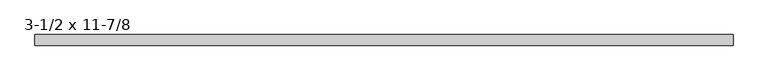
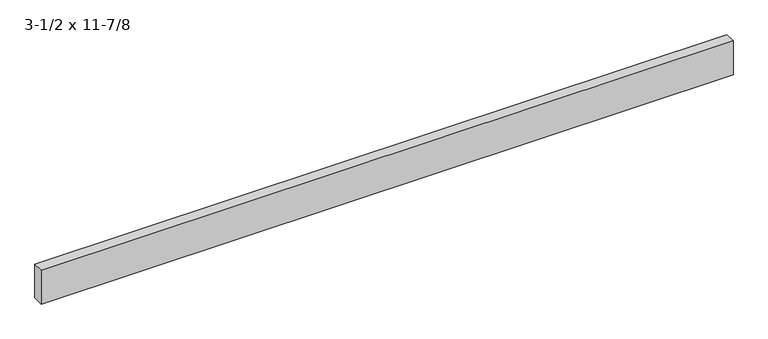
"""IFC4 building model written with IfcOpenShell, lengths in millimetres: beam geometry, Trus Joist - Parallam PSL - Beam Header : 3-1/2 x 11-7/8."""

from ifc_helpers import new_model, si_unit, frame, origin, place, context, project, spatial, polyline, outline, extrude, source, transform, mapped, element, save


def beam_3_1_2_x_11_7_8_73793a9f(model_context):
    return source(origin(), model_context, "Body", "SweptSolid", [
        extrude(outline(polyline([(2901.95, 44.45), (2901.95, -44.45), (-2927.35, -44.45), (-2927.35, 44.45), (2901.95, 44.45)])), frame((0.0, 0.0, -150.8125), z_axis=(0.0, 0.0, 1.0), x_axis=(1.0, 0.0, 0.0)), (0.0, 0.0, 1.0), 301.625),
    ])


if __name__ == "__main__":
    model = new_model("IFC4")
    model_context = context("Model", 3, world=origin())
    ifc_project = project(units=[si_unit("LENGTHUNIT", "METRE", prefix="MILLI")], contexts=[model_context])
    site = spatial("IfcSite", under=ifc_project)
    building = spatial("IfcBuilding", under=site)
    placement = place(None, origin())
    beam_3_1_2_x_11_7_8_shape = beam_3_1_2_x_11_7_8_73793a9f(model_context)
    element("IfcBeam", 1, ObjectType="Trus Joist - Parallam PSL - Beam Header : 3-1/2 x 11-7/8", at=placement, inside=building, context=model_context, shape_type="MappedRepresentation", body=[
        mapped(beam_3_1_2_x_11_7_8_shape, transform((0.0, 0.0, 0.0), x_axis=(1.0, 0.0, 0.0), y_axis=(0.0, 1.0, 0.0), z_axis=(0.0, 0.0, 1.0))),
    ])
    save(model, "model.ifc")
